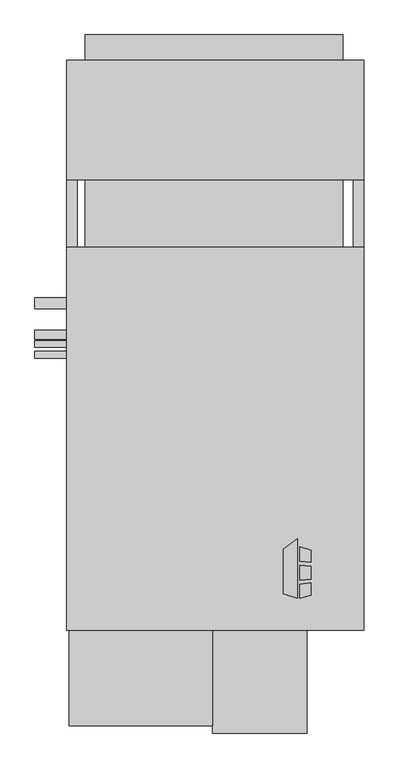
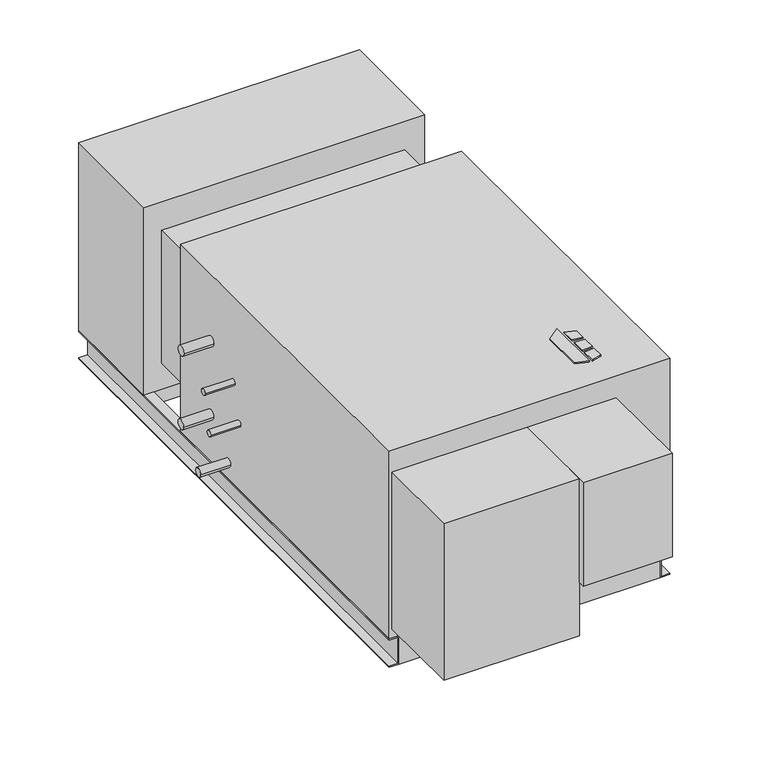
"""IFC4 building model written with IfcOpenShell, lengths in millimetres: proxy geometry, Horizontal_Direct_Drive_Blower_Coil_Unit_-_HDY_-_IEC_-_4-Pipe_NFilterR_W-MixingBox_LH_2022 : Size 06 - 460v/60Hz/3Ph - 6/2 Coil."""

from ifc_helpers import new_model, si_unit, point, frame, frame_2d, origin, origin_with_axes, place, context, project, spatial, polyline, circle_curve, trimmed, segment, composite_curve, outline, extrude, source, transform, mapped, element, save


def mechanical_equipment_a33fc95e(model_context):
    return source(origin(), model_context, "Body", "SweptSolid", [
        extrude(outline(polyline([(-547.9980239, -229.5578476), (-515.4397272, -204.1205184), (-515.4397272, -346.075), (-547.9980239, -335.8554201), (-547.9980239, -229.5578476)])), origin_with_axes(), (0.0, 0.0, 1.0), 3.175),
        extrude(outline(polyline([(-508.6813942, -257.429852), (-508.6813942, -222.9499379), (-482.6, -231.1365115), (-482.6, -260.6322446), (-508.6813942, -257.429852)])), origin_with_axes(), (0.0, 0.0, 1.0), 3.175),
        extrude(outline(polyline([(-482.6, -339.0865115), (-508.6813942, -346.075), (-508.6813942, -312.8536996), (-482.6, -309.3118564), (-482.6, -339.0865115)])), origin_with_axes(), (0.0, 0.0, 1.0), 3.175),
        extrude(outline(polyline([(-482.6, -269.7138277), (-482.6, -300.963983), (-508.6813942, -303.705248), (-508.6813942, -267.8475378), (-482.6, -269.7138277)])), origin_with_axes(), (0.0, 0.0, 1.0), 3.175),
        extrude(outline(polyline([(-406.4, 837.565), (-406.4, 685.165), (-1022.35, 685.165), (-1022.35, 837.565), (-406.4, 837.565)])), frame((0.0, 0.0, -562.61), z_axis=(0.0, 0.0, 1.0), x_axis=(1.0, 0.0, 0.0)), (0.0, 0.0, 1.0), 60.96),
        extrude(outline(polyline([(-1022.35, 1000.125), (-406.4, 1000.125), (-406.4, 939.165), (-1022.35, 939.165), (-1022.35, 1000.125)])), frame((0.0, 0.0, -228.6), z_axis=(0.0, 0.0, 1.0), x_axis=(1.0, 0.0, 0.0)), (0.0, 0.0, 1.0), 152.4),
        extrude(outline(polyline([(-355.6, 939.165), (-355.6, 654.05), (-1066.8, 654.05), (-1066.8, 939.165), (-355.6, 939.165)])), frame((0.0, 0.0, -501.65), z_axis=(0.0, 0.0, 1.0), x_axis=(1.0, 0.0, 0.0)), (0.0, 0.0, 1.0), 501.65),
        extrude(outline(polyline([(-381.0, -396.875), (-381.0, -422.275), (-1041.4, -422.275), (-1041.4, -396.875), (-381.0, -396.875)])), frame((0.0, 0.0, -577.85), z_axis=(0.0, 0.0, 1.0), x_axis=(1.0, 0.0, 0.0)), (0.0, 0.0, 1.0), 76.2),
        extrude(outline(polyline([(-381.0, 939.165), (-381.0, 913.765), (-1041.4, 913.765), (-1041.4, 939.165), (-381.0, 939.165)])), frame((0.0, 0.0, -577.85), z_axis=(0.0, 0.0, 1.0), x_axis=(1.0, 0.0, 0.0)), (0.0, 0.0, 1.0), 76.2),
        extrude(outline(polyline([(-501.65, -1041.4), (-501.65, -1066.8), (-504.825, -1066.8), (-504.825, -1044.575), (-574.675, -1044.575), (-574.675, -1066.8), (-577.85, -1066.8), (-577.85, -1041.4), (-501.65, -1041.4)])), frame((0.0, -422.275, 0.0), z_axis=(0.0, 1.0, 0.0), x_axis=(0.0, 0.0, 1.0)), (0.0, 0.0, 1.0), 1361.44),
        extrude(outline(polyline([(-501.65, -381.0), (-577.85, -381.0), (-577.85, -355.6), (-574.675, -355.6), (-574.675, -377.825), (-504.825, -377.825), (-504.825, -355.6), (-501.65, -355.6), (-501.65, -381.0)])), frame((0.0, -422.275, 0.0), z_axis=(0.0, 1.0, 0.0), x_axis=(0.0, 0.0, 1.0)), (0.0, 0.0, 1.0), 1361.44),
        extrude(outline(composite_curve([segment(trimmed(circle_curve(frame_2d((358.775, -177.8)), 12.7), [point((371.475, -177.8))], [point((346.075, -177.8))], False, "CARTESIAN"), True, "CONTINUOUS"), segment(trimmed(circle_curve(frame_2d((358.775, -177.8)), 12.7), [point((346.075, -177.8))], [point((371.475, -177.8))], False, "CARTESIAN"), True, "CONTINUOUS")], self_intersect=False)), frame((-1143.0, 0.0, 0.0), z_axis=(1.0, 0.0, 0.0), x_axis=(0.0, 1.0, 0.0)), (0.0, 0.0, 1.0), 76.2),
        extrude(outline(composite_curve([segment(trimmed(circle_curve(frame_2d((359.642288, -374.65)), 12.7), [point((372.342288, -374.65))], [point((346.942288, -374.65))], False, "CARTESIAN"), True, "CONTINUOUS"), segment(trimmed(circle_curve(frame_2d((359.642288, -374.65)), 12.7), [point((346.942288, -374.65))], [point((372.342288, -374.65))], False, "CARTESIAN"), True, "CONTINUOUS")], self_intersect=False)), frame((-1143.0, 0.0, 0.0), z_axis=(1.0, 0.0, 0.0), x_axis=(0.0, 1.0, 0.0)), (0.0, 0.0, 1.0), 76.2),
        extrude(outline(composite_curve([segment(trimmed(circle_curve(frame_2d((283.442288, -457.2)), 11.1125), [point((294.554788, -457.2))], [point((272.329788, -457.2))], False, "CARTESIAN"), True, "CONTINUOUS"), segment(trimmed(circle_curve(frame_2d((283.442288, -457.2)), 11.1125), [point((272.329788, -457.2))], [point((294.554788, -457.2))], False, "CARTESIAN"), True, "CONTINUOUS")], self_intersect=False)), frame((-1143.0, 0.0, 0.0), z_axis=(1.0, 0.0, 0.0), x_axis=(0.0, 1.0, 0.0)), (0.0, 0.0, 1.0), 76.2),
        extrude(outline(composite_curve([segment(trimmed(circle_curve(frame_2d((261.217288, -228.6)), 7.9375), [point((269.154788, -228.6))], [point((253.279788, -228.6))], False, "CARTESIAN"), True, "CONTINUOUS"), segment(trimmed(circle_curve(frame_2d((261.217288, -228.6)), 7.9375), [point((253.279788, -228.6))], [point((269.154788, -228.6))], False, "CARTESIAN"), True, "CONTINUOUS")], self_intersect=False)), frame((-1143.0, 0.0, 0.0), z_axis=(1.0, 0.0, 0.0), x_axis=(0.0, 1.0, 0.0)), (0.0, 0.0, 1.0), 76.2),
        extrude(outline(composite_curve([segment(trimmed(circle_curve(frame_2d((235.817288, -324.1292556)), 7.9375), [point((243.754788, -324.1292556))], [point((227.879788, -324.1292556))], False, "CARTESIAN"), True, "CONTINUOUS"), segment(trimmed(circle_curve(frame_2d((235.817288, -324.1292556)), 7.9375), [point((227.879788, -324.1292556))], [point((243.754788, -324.1292556))], False, "CARTESIAN"), True, "CONTINUOUS")], self_intersect=False)), frame((-1143.0, 0.0, 0.0), z_axis=(1.0, 0.0, 0.0), x_axis=(0.0, 1.0, 0.0)), (0.0, 0.0, 1.0), 76.2),
        extrude(outline(polyline([(-355.6, 492.125), (-355.6, -422.275), (-1066.8, -422.275), (-1066.8, 492.125), (-355.6, 492.125)])), frame((0.0, 0.0, -501.65), z_axis=(0.0, 0.0, 1.0), x_axis=(1.0, 0.0, 0.0)), (0.0, 0.0, 1.0), 501.65),
        extrude(outline(polyline([(-717.55, -650.875), (-1060.45, -650.875), (-1060.45, -422.275), (-717.55, -422.275), (-717.55, -650.875)])), frame((0.0, 0.0, -476.25), z_axis=(0.0, 0.0, 1.0), x_axis=(1.0, 0.0, 0.0)), (0.0, 0.0, 1.0), 419.1),
        extrude(outline(polyline([(-1022.35, 654.05), (-406.4, 654.05), (-406.4, 492.125), (-1022.35, 492.125), (-1022.35, 654.05)])), frame((0.0, 0.0, -431.8), z_axis=(0.0, 0.0, 1.0), x_axis=(1.0, 0.0, 0.0)), (0.0, 0.0, 1.0), 355.6),
        extrude(outline(polyline([(-492.125, -668.3375), (-717.55, -668.3375), (-717.55, -422.275), (-492.125, -422.275), (-492.125, -668.3375)])), frame((0.0, 0.0, -333.375), z_axis=(0.0, 0.0, 1.0), x_axis=(1.0, 0.0, 0.0)), (0.0, 0.0, 1.0), 276.225),
    ])


if __name__ == "__main__":
    model = new_model("IFC4")
    model_context = context("Model", 3, world=origin())
    ifc_project = project(units=[si_unit("LENGTHUNIT", "METRE", prefix="MILLI")], contexts=[model_context])
    site = spatial("IfcSite", under=ifc_project)
    building = spatial("IfcBuilding", under=site)
    placement = place(None, origin())
    mechanical_equipment_shape = mechanical_equipment_a33fc95e(model_context)
    element("IfcBuildingElementProxy", 1, Name="Horizontal_Direct_Drive_Blower_Coil_Unit_-_HDY_-_IEC_-_4-Pipe_NFilterR_W-MixingBox_LH_2022 : Size 06 - 460v/60Hz/3Ph - 6/2 Coil", ObjectType="Horizontal_Direct_Drive_Blower_Coil_Unit_-_HDY_-_IEC_-_4-Pipe_NFilterR_W-MixingBox_LH_2022 : Size 06 - 460v/60Hz/3Ph - 6/2 Coil", at=placement, inside=building, context=model_context, shape_type="MappedRepresentation", body=[
        mapped(mechanical_equipment_shape, transform((0.0, 0.0, 0.0), x_axis=(1.0, 0.0, 0.0), y_axis=(0.0, 1.0, 0.0), z_axis=(0.0, 0.0, 1.0))),
    ])
    save(model, "model.ifc")
